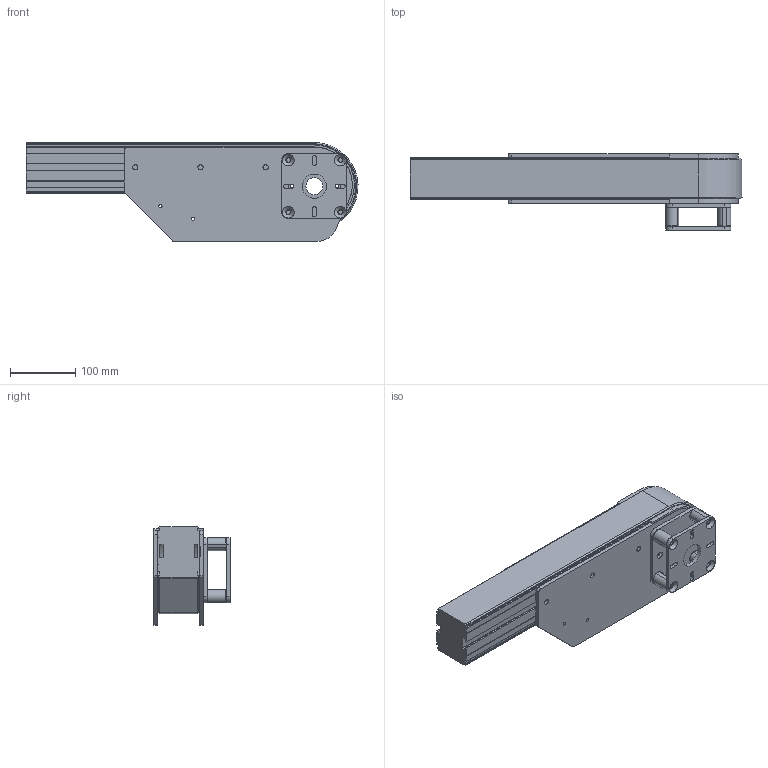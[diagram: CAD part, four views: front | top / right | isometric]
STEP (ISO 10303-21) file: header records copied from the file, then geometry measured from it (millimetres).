
FILE_DESCRIPTION(/* description */ (''),/* implementation_level */ '2;1');
FILE_NAME(/* name */ 'C:\Users\mikael.ljungberg\OneDrive - Carryline AB\Skrivbordet\Tillfalliga_filer\620-30-xRx-xxx.stp',/* time_stamp */ '2021-04-26T07:25:55+02:00',/* author */ ('ML'),/* organization */ (''),/* preprocessor_version */ 'ST-DEVELOPER v18.1',/* originating_system */ 'Autodesk Inventor 2020',/* authorisation */ '');
FILE_SCHEMA (('AUTOMOTIVE_DESIGN { 1 0 10303 214 3 1 1 }'));
Length unit declared in the file: millimetre
Products named in the file (11): 620-30-xRx-xxx; 620-30-xRx-x-xx; Serie 620 Drivenhet; 620-1000+620-2000-01; 900-3010L; 900-3010R; 900-2120R; 900-2120L; 900-3075; 900-3077; 900-3150
Assembly tree (13 placements, depth 4):
  620-30-xRx-xxx
    620-30-xRx-x-xx
      Serie 620 Drivenhet
        620-1000+620-2000-01
        900-3010L
        900-3010R
      900-2120R
      900-2120L
      900-3075
      900-3077
      900-3150  x4
Bounding box: 509.95 x 117 x 152 mm (x, y, z)
Volume: 2751607.4 mm3; surface area: 516624.6 mm2
Topology: 11 solids, 11 shells, 290 faces, 800 edges, 530 vertices
Faces by surface type: plane 157, cylinder 95, cone 22, torus 16
Full cylindrical faces by diameter (mm): 5 x4, 6.647 x4, 8 x10, 8.5 x8, 26 x3, 37 x1, 45 x2
Entity records: 8908 total; most frequent: CARTESIAN_POINT 1562, DIRECTION 1477, ORIENTED_EDGE 1420, EDGE_CURVE 710, AXIS2_PLACEMENT_3D 500, LINE 477, VECTOR 477, VERTEX_POINT 473
